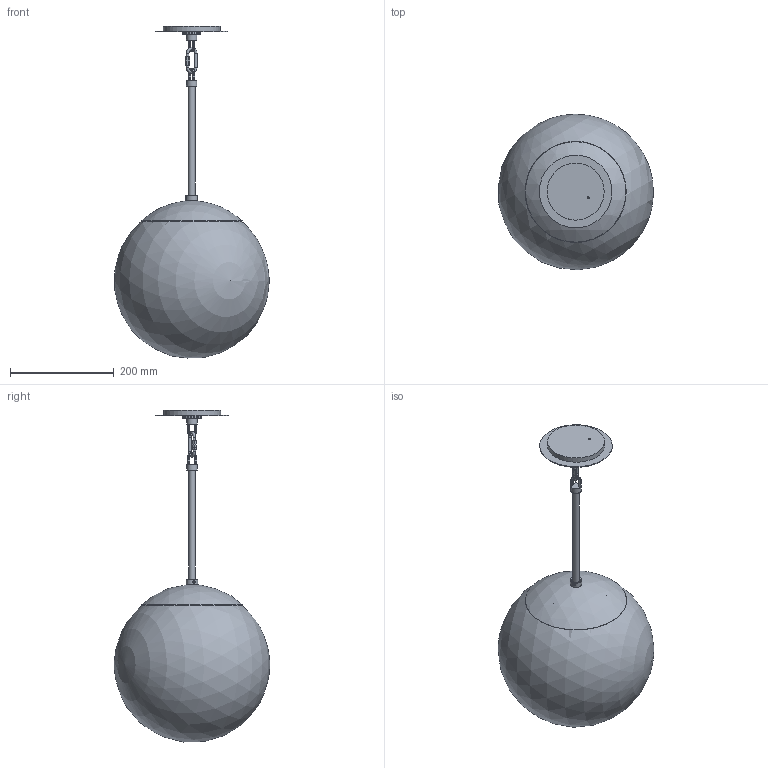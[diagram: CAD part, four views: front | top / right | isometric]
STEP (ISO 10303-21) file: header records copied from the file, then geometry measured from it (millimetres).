
FILE_DESCRIPTION(/* description */ (''),/* implementation_level */ '2;1');
FILE_NAME(/* name */ 'T:\B198 Opal Pendant 300\Pliki bryłowe handlowe\B198 Glass Globe Opal 300 3D files_na stronę\B198 Glass Globe Opal 300.stp',/* time_stamp */ '2022-02-02T15:13:37+01:00',/* author */ ('Mariusz Awariusz'),/* organization */ (''),/* preprocessor_version */ 'ST-DEVELOPER v18.1',/* originating_system */ 'Autodesk Inventor 2022',/* authorisation */ '');
FILE_SCHEMA (('AUTOMOTIVE_DESIGN { 1 0 10303 214 3 1 1 }'));
Length unit declared in the file: millimetre
Products named in the file (1): B198 Opal Pendant 300 CE v6_na potrzeby plików 3D_2_jako część_
korpusy bryłowe
Bounding box: 298.65 x 299.91 x 639.78 mm (x, y, z)
Volume: 1516234.7 mm3; surface area: 670152.5 mm2
Topology: 13 solids, 14 shells, 135 faces, 295 edges, 184 vertices
Faces by surface type: plane 58, cylinder 39, torus 13, cone 11, bspline 8, sphere 6
Full cylindrical faces by diameter (mm): 4 x1, 5 x5, 13 x1, 14.6 x1, 16 x2, 16.2 x1, 20 x2, 22 x1, 34.5 x1, 36 x1, 110 x1, 120 x1, 140 x1
Entity records: 3889 total; most frequent: CARTESIAN_POINT 857, DIRECTION 656, ORIENTED_EDGE 578, EDGE_CURVE 289, AXIS2_PLACEMENT_3D 259, VERTEX_POINT 184, EDGE_LOOP 145, LINE 138
